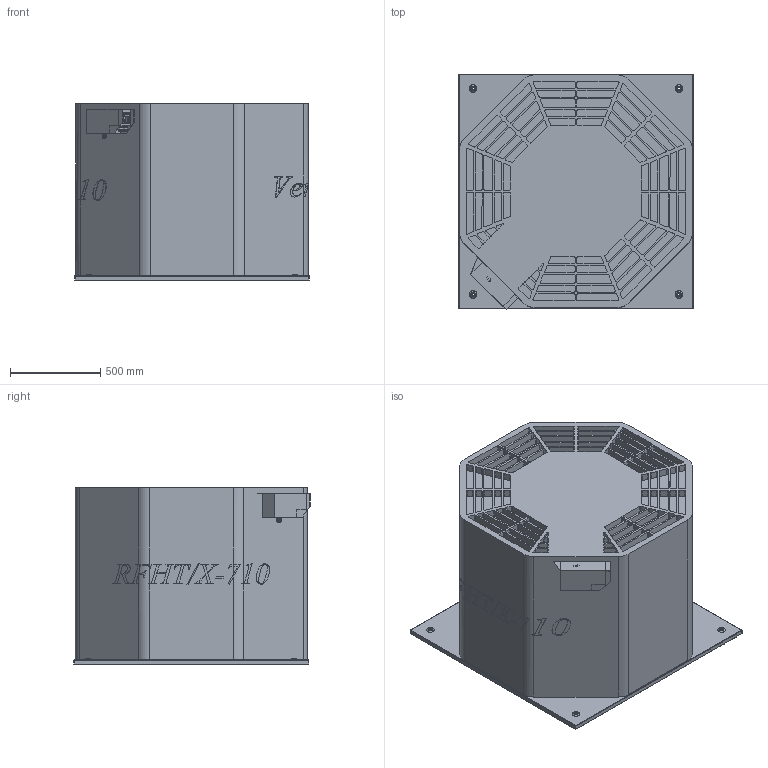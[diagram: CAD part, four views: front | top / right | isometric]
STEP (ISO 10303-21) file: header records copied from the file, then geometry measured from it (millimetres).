
FILE_DESCRIPTION(/* description */ (''),/* implementation_level */ '2;1');
FILE_NAME(/* name */ 'E:\Mariusz\Modele uproszczone\RFHT\RFHT_x_710 423534100\RFHT_x_710 423534100\RFHT_x_710 423534100.stp',/* time_stamp */ '2018-06-18T09:42:26+02:00',/* author */ ('M.Janczarek'),/* organization */ (''),/* preprocessor_version */ 'ST-DEVELOPER v16.5',/* originating_system */ 'Autodesk Inventor 2017',/* authorisation */ '');
FILE_SCHEMA (('AUTOMOTIVE_DESIGN { 1 0 10303 214 3 1 1 }'));
Products named in the file (1): RFHT_x_710 423534100
Bounding box: 1300 x 1307.61 x 977.5 mm (x, y, z)
Volume: 1291065081.6 mm3; surface area: 9066251.2 mm2
Topology: 1 solids, 1 shells, 1903 faces, 5184 edges, 3418 vertices
Faces by surface type: plane 1057, cylinder 397, bspline 351, cone 64, torus 22, sphere 12
Full cylindrical faces by diameter (mm): 6.186 x1, 12.4 x4, 13.5 x1, 14.5 x2, 20 x1, 23 x1, 24 x2, 27 x2, 30.5 x2, 52 x1, 55 x1, 56.5 x1, 60 x1, 575 x1
Entity records: 63849 total; most frequent: CARTESIAN_POINT 16953, ORIENTED_EDGE 10218, DIRECTION 8480, EDGE_CURVE 5109, VERTEX_POINT 3402, LINE 3196, VECTOR 3196, AXIS2_PLACEMENT_3D 2642
